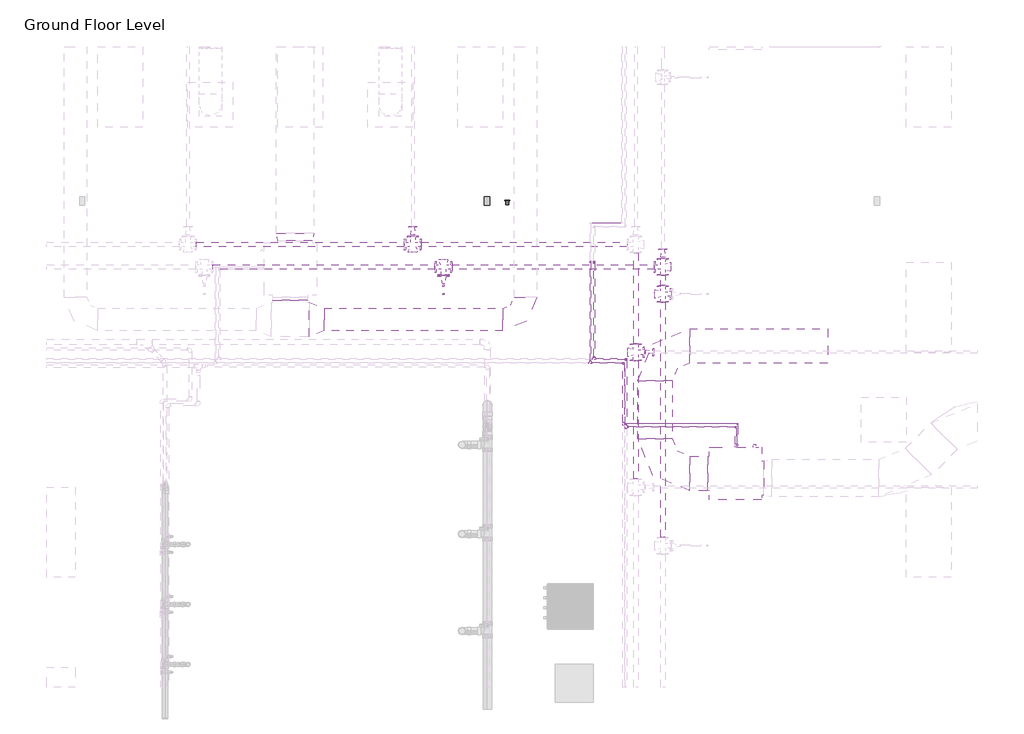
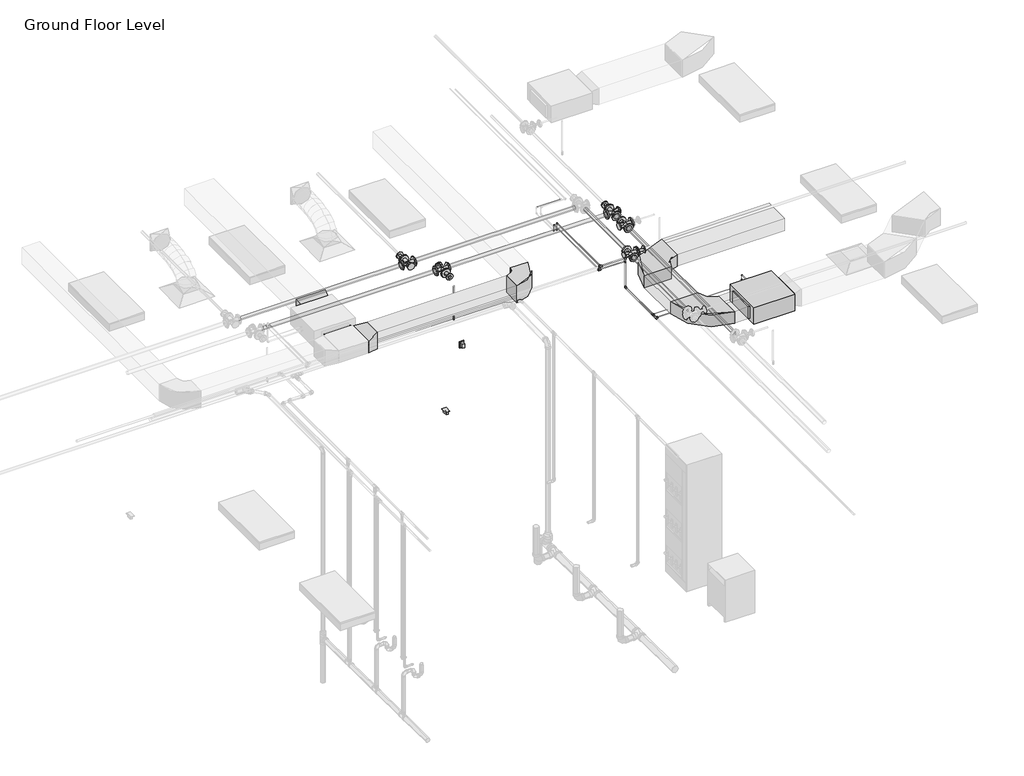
# One storey, part 67 of 74: 29 pipe fittings, 27 pipe segments, 6 duct fittings, 4 duct segments, 2 proxies, 1 fire suppression terminal, 1 switching device.
"""IFC4 building model written with IfcOpenShell, lengths in millimetres."""

from ifc_helpers import new_model, si_unit, point, frame, frame_2d, origin, place, context, project, spatial, polyline, circle_curve, trimmed, segment, composite_curve, outline, extrude, transform, mapped, element, save
from components import fcu_daikin_iu_bad131e0, m_duplex_receptacle_standard_10251bba, m_rectangular_elbow_radius_1_w_618da153, m_rectangular_elbow_radius_1_w_54c96895, m_rectangular_transition_angle_45_degree_5a11b24e, m_rectangular_transition_angle_45_degree_1c32c0a1, m_rectangular_transition_angle_45_degree_6e5ad010, m_sprinkler_pendent_15_mm_pendent_06fcbd8e, m_elbow_generic_standard_a088f956, m_elbow_generic_standard_2a704253, m_elbow_generic_standard_73005802, m_elbow_generic_standard_bb5ffebe, m_reducer_flanged_cs_class_150_standard_a7631c35, m_reducer_flanged_cs_class_150_standard_55262df0, m_tee_generic_standard_cdc1cff5, m_tee_generic_standard_bbfc025c, m_tee_round_base_flanged_cs_class_150_standard_dd767e04, m_transition_generic_standard_e9aec4dd, m_transition_generic_standard_c2658a33

model = new_model("IFC4")

# Units and contexts
model_context = context("Model", 3, world=origin())
ifc_project = project(units=[si_unit("LENGTHUNIT", "METRE", prefix="MILLI")], contexts=[model_context])

# Site, building, storey
site = spatial("IfcSite", under=ifc_project)
building = spatial("IfcBuilding", under=site)
storey = spatial("IfcBuildingStorey", under=building, Name="Ground Floor Level", Elevation=900.0)

# Proxies
placement = place(None, origin())
fcu_daikin_iu_shape = fcu_daikin_iu_bad131e0(model_context)
element("IfcBuildingElementProxy", 1, Name="FCU-DAIKIN IU : 4.5kW, 230V/50Hz/1Ph", ObjectType="FCU-DAIKIN IU : 4.5kW, 230V/50Hz/1Ph", at=placement, inside=storey, context=model_context, shape_type="MappedRepresentation", body=[
    mapped(fcu_daikin_iu_shape, transform((6968.8139492, 12019.6779527, 3934.0932729), x_axis=(0.0, 1.0, 0.0), y_axis=(-1.0, 0.0, 0.0), z_axis=(0.0, 0.0, 1.0))),
])
m_duplex_receptacle_standard_shape = m_duplex_receptacle_standard_10251bba(model_context)
element("IfcBuildingElementProxy", 2, Name="M_Duplex Receptacle : Standard", ObjectType="M_Duplex Receptacle : Standard", at=placement, inside=storey, context=model_context, shape_type="MappedRepresentation", body=[
    mapped(m_duplex_receptacle_standard_shape, transform((3652.7672395, 15655.2153534, 1000.0), x_axis=(1.0, 0.0, 0.0), y_axis=(0.0, 1.0, 0.0), z_axis=(0.0, 0.0, 1.0))),
])

# Duct fittings
m_rectangular_elbow_radius_1_w_shape = m_rectangular_elbow_radius_1_w_618da153(model_context)
element("IfcDuctFitting", 3, ObjectType="M_Rectangular Elbow - Radius : 1 W", at=placement, inside=storey, context=model_context, shape_type="MappedRepresentation", body=[
    mapped(m_rectangular_elbow_radius_1_w_shape, transform((4162.7672395, 14069.8153534, 4075.2872564), x_axis=(1.0, 0.0, 0.0), y_axis=(0.0, 1.0, 0.0), z_axis=(0.0, 0.0, 1.0))),
])
m_rectangular_elbow_radius_1_w_2_shape = m_rectangular_elbow_radius_1_w_54c96895(model_context)
element("IfcDuctFitting", 4, ObjectType="M_Rectangular Elbow - Radius : 1 W", at=placement, inside=storey, context=model_context, shape_type="MappedRepresentation", body=[
    mapped(m_rectangular_elbow_radius_1_w_2_shape, transform((5893.4139492, 12019.6779527, 4075.2932729), x_axis=(0.0, -1.0, 0.0), y_axis=(1.0, 0.0, 0.0), z_axis=(0.0, 0.0, 1.0))),
])
element("IfcDuctFitting", 5, ObjectType="M_Rectangular Elbow - Radius : 1 W", at=placement, inside=storey, context=model_context, shape_type="MappedRepresentation", body=[
    mapped(m_rectangular_elbow_radius_1_w_2_shape, transform((5893.4139492, 13719.6783949, 4075.2932729), x_axis=(-1.0, 0.0, 0.0), y_axis=(0.0, -1.0, 0.0), z_axis=(0.0, 0.0, 1.0))),
])
m_rectangular_transition_angle_45_degree_shape = m_rectangular_transition_angle_45_degree_5a11b24e(model_context)
element("IfcDuctFitting", 6, ObjectType="M_Rectangular Transition - Angle : 45 Degree", at=placement, inside=storey, context=model_context, shape_type="MappedRepresentation", body=[
    mapped(m_rectangular_transition_angle_45_degree_shape, transform((1091.2672395, 15120.6153534, 4099.9997564), x_axis=(0.0, 1.0, 0.0), y_axis=(-1.0, 0.0, 0.0), z_axis=(0.0, 0.0, 1.0))),
])
m_rectangular_transition_angle_45_degree_2_shape = m_rectangular_transition_angle_45_degree_1c32c0a1(model_context)
element("IfcDuctFitting", 7, ObjectType="M_Rectangular Transition - Angle : 45 Degree", at=placement, inside=storey, context=model_context, shape_type="MappedRepresentation", body=[
    mapped(m_rectangular_transition_angle_45_degree_2_shape, transform((1027.7672395, 14326.1149854, 4075.2872564), x_axis=(0.0, -1.0, 0.0), y_axis=(1.0, 0.0, 0.0), z_axis=(0.0, 0.0, 1.0))),
])
m_rectangular_transition_angle_45_degree_3_shape = m_rectangular_transition_angle_45_degree_6e5ad010(model_context)
element("IfcDuctFitting", 8, ObjectType="M_Rectangular Transition - Angle : 45 Degree", at=placement, inside=storey, context=model_context, shape_type="MappedRepresentation", body=[
    mapped(m_rectangular_transition_angle_45_degree_3_shape, transform((1283.7047395, 14069.8153534, 4075.2872564), x_axis=(1.0, 0.0, 0.0), y_axis=(0.0, 1.0, 0.0), z_axis=(0.0, 0.0, 1.0))),
])

# Duct segments
element("IfcDuctSegment", 9, ObjectType="Radius Elbows / Taps", at=placement, inside=storey, context=model_context, shape_type="SweptSolid", body=[
    extrude(outline(polyline([(1479.1051497, 13919.8153534), (1479.1051497, 14219.8153534), (3862.7672395, 14219.8153534), (3862.7672395, 13919.8153534), (1479.1051497, 13919.8153534)])), frame((0.0, 0.0, 3925.2872564), z_axis=(0.0, 0.0, 1.0), x_axis=(1.0, 0.0, 0.0)), (0.0, 0.0, 1.0), 300.0),
])
element("IfcDuctSegment", 10, ObjectType="Radius Elbows / Taps", at=placement, inside=storey, context=model_context, shape_type="SweptSolid", body=[
    extrude(outline(polyline([(6593.4139492, 12250.6154527), (6593.4139492, 11788.7404527), (6355.2889492, 11788.7404527), (6355.2889492, 12250.6154527), (6593.4139492, 12250.6154527)])), frame((0.0, 0.0, 3968.1432729), z_axis=(0.0, 0.0, 1.0), x_axis=(1.0, 0.0, 0.0)), (0.0, 0.0, 1.0), 214.3),
])
element("IfcDuctSegment", 11, ObjectType="Radius Elbows / Taps", at=placement, inside=storey, context=model_context, shape_type="SweptSolid", body=[
    extrude(outline(polyline([(6124.3514492, 12481.5529527), (5662.4764492, 12481.5529527), (5662.4764492, 13257.8033949), (6124.3514492, 13257.8033949), (6124.3514492, 12481.5529527)])), frame((0.0, 0.0, 3968.1432729), z_axis=(0.0, 0.0, 1.0), x_axis=(1.0, 0.0, 0.0)), (0.0, 0.0, 1.0), 214.3),
])
element("IfcDuctSegment", 12, ObjectType="Radius Elbows / Taps", at=placement, inside=storey, context=model_context, shape_type="SweptSolid", body=[
    extrude(outline(polyline([(6355.2889492, 13488.7408949), (6355.2889492, 13950.6158949), (8193.4139492, 13950.6158949), (8193.4139492, 13488.7408949), (6355.2889492, 13488.7408949)])), frame((0.0, 0.0, 3968.1432729), z_axis=(0.0, 0.0, 1.0), x_axis=(1.0, 0.0, 0.0)), (0.0, 0.0, 1.0), 214.3),
])

# Fire suppression terminal
m_sprinkler_pendent_15_mm_pendent_shape = m_sprinkler_pendent_15_mm_pendent_06fcbd8e(model_context)
element("IfcFireSuppressionTerminal", 13, ObjectType="M_Sprinkler - Pendent : 15 mm Pendent", at=placement, inside=storey, context=model_context, shape_type="MappedRepresentation", body=[
    mapped(m_sprinkler_pendent_15_mm_pendent_shape, transform((3071.8868905, 14412.7243649, 3650.0), x_axis=(1.0, 0.0, 0.0), y_axis=(0.0, 1.0, 0.0), z_axis=(0.0, 0.0, 1.0))),
])

# Pipe fittings
m_elbow_generic_standard_shape = m_elbow_generic_standard_a088f956(model_context)
element("IfcPipeFitting", 14, ObjectType="M_Elbow - Generic : Standard", at=placement, inside=storey, context=model_context, shape_type="MappedRepresentation", body=[
    mapped(m_elbow_generic_standard_shape, transform((6968.8139492, 12641.4098545, 4034.0932729), x_axis=(0.0, 1.0, 0.0), y_axis=(0.0, 0.0, -1.0), z_axis=(-1.0, 0.0, 0.0))),
])
element("IfcPipeFitting", 15, ObjectType="M_Elbow - Generic : Standard", at=placement, inside=storey, context=model_context, shape_type="MappedRepresentation", body=[
    mapped(m_elbow_generic_standard_shape, transform((6968.8139492, 12641.4098545, 3851.8370709), x_axis=(0.0, 0.0, -1.0), y_axis=(-1.0, 0.0, 0.0), z_axis=(0.0, 1.0, 0.0))),
])
element("IfcPipeFitting", 16, ObjectType="M_Elbow - Generic : Standard", at=placement, inside=storey, context=model_context, shape_type="MappedRepresentation", body=[
    mapped(m_elbow_generic_standard_shape, transform((5079.6672395, 14839.2712401, 4250.0), x_axis=(0.0, -1.0, 0.0), y_axis=(0.0, 0.0, 1.0), z_axis=(-1.0, 0.0, 0.0))),
])
element("IfcPipeFitting", 17, ObjectType="M_Elbow - Generic : Standard", at=placement, inside=storey, context=model_context, shape_type="MappedRepresentation", body=[
    mapped(m_elbow_generic_standard_shape, transform((5079.6672395, 14839.2712401, 4380.0), x_axis=(0.0, 0.0, 1.0), y_axis=(0.0, -1.0, 0.0), z_axis=(1.0, 0.0, 0.0))),
])
m_elbow_generic_standard_2_shape = m_elbow_generic_standard_2a704253(model_context)
element("IfcPipeFitting", 18, ObjectType="M_Elbow - Generic : Standard", at=placement, inside=storey, context=model_context, shape_type="MappedRepresentation", body=[
    mapped(m_elbow_generic_standard_2_shape, transform((6993.8139492, 12681.5253374, 4084.8932729), x_axis=(0.0, 1.0, 0.0), y_axis=(0.0, 0.0, -1.0), z_axis=(-1.0, 0.0, 0.0))),
])
element("IfcPipeFitting", 19, ObjectType="M_Elbow - Generic : Standard", at=placement, inside=storey, context=model_context, shape_type="MappedRepresentation", body=[
    mapped(m_elbow_generic_standard_2_shape, transform((6993.8139492, 12681.5253374, 3894.9), x_axis=(0.0, 0.0, -1.0), y_axis=(-1.0, 0.0, 0.0), z_axis=(0.0, 1.0, 0.0))),
])
element("IfcPipeFitting", 20, ObjectType="M_Elbow - Generic : Standard", at=placement, inside=storey, context=model_context, shape_type="MappedRepresentation", body=[
    mapped(m_elbow_generic_standard_2_shape, transform((5029.9807053, 14842.4877441, 4250.0), x_axis=(0.0, -1.0, 0.0), y_axis=(0.0, 0.0, 1.0), z_axis=(-1.0, 0.0, 0.0))),
])
element("IfcPipeFitting", 21, ObjectType="M_Elbow - Generic : Standard", at=placement, inside=storey, context=model_context, shape_type="MappedRepresentation", body=[
    mapped(m_elbow_generic_standard_2_shape, transform((5029.9807053, 14842.4877441, 4365.0), x_axis=(0.0, 0.0, 1.0), y_axis=(0.0, -1.0, 0.0), z_axis=(1.0, 0.0, 0.0))),
])
m_elbow_generic_standard_3_shape = m_elbow_generic_standard_73005802(model_context)
element("IfcPipeFitting", 22, ObjectType="M_Elbow - Generic : Standard", at=placement, inside=storey, context=model_context, shape_type="MappedRepresentation", body=[
    mapped(m_elbow_generic_standard_3_shape, transform((5505.0672395, 13545.2153534, 3851.8370709), x_axis=(0.0, 1.0, 0.0), y_axis=(0.0, 0.0, 1.0), z_axis=(1.0, 0.0, 0.0))),
])
element("IfcPipeFitting", 23, ObjectType="M_Elbow - Generic : Standard", at=placement, inside=storey, context=model_context, shape_type="MappedRepresentation", body=[
    mapped(m_elbow_generic_standard_3_shape, transform((5505.0672395, 13545.2153534, 4380.0), x_axis=(0.0, 0.0, 1.0), y_axis=(-1.0, 0.0, 0.0), z_axis=(0.0, -1.0, 0.0))),
])
m_elbow_generic_standard_4_shape = m_elbow_generic_standard_bb5ffebe(model_context)
element("IfcPipeFitting", 24, ObjectType="M_Elbow - Generic : Standard", at=placement, inside=storey, context=model_context, shape_type="MappedRepresentation", body=[
    mapped(m_elbow_generic_standard_4_shape, transform((5472.2057053, 13494.0185138, 3894.9), x_axis=(0.0, 1.0, 0.0), y_axis=(0.0, 0.0, 1.0), z_axis=(1.0, 0.0, 0.0))),
])
element("IfcPipeFitting", 25, ObjectType="M_Elbow - Generic : Standard", at=placement, inside=storey, context=model_context, shape_type="MappedRepresentation", body=[
    mapped(m_elbow_generic_standard_4_shape, transform((5472.2057053, 13494.0185138, 4365.0), x_axis=(0.0, 0.0, 1.0), y_axis=(-1.0, 0.0, 0.0), z_axis=(0.0, -1.0, 0.0))),
])
m_reducer_flanged_cs_class_150_standard_shape = m_reducer_flanged_cs_class_150_standard_a7631c35(model_context)
element("IfcPipeFitting", 26, ObjectType="M_Reducer - Flanged - CS - Class 150 : Standard", at=placement, inside=storey, context=model_context, shape_type="MappedRepresentation", body=[
    mapped(m_reducer_flanged_cs_class_150_standard_shape, transform((5997.057812, 14887.4681847, 4291.0943441), x_axis=(0.0, 1.0, 0.0), y_axis=(-1.0, 0.0, 0.0), z_axis=(0.0, 0.0, 1.0))),
])
element("IfcPipeFitting", 27, ObjectType="M_Reducer - Flanged - CS - Class 150 : Standard", at=placement, inside=storey, context=model_context, shape_type="MappedRepresentation", body=[
    mapped(m_reducer_flanged_cs_class_150_standard_shape, transform((2662.7672395, 15187.2009828, 4360.0), x_axis=(0.0, 1.0, 0.0), y_axis=(-1.0, 0.0, 0.0), z_axis=(0.0, 0.0, 1.0))),
])
element("IfcPipeFitting", 28, ObjectType="M_Reducer - Flanged - CS - Class 150 : Standard", at=placement, inside=storey, context=model_context, shape_type="MappedRepresentation", body=[
    mapped(m_reducer_flanged_cs_class_150_standard_shape, transform((5749.869498, 13635.2153534, 4360.0), x_axis=(1.0, 0.0, 0.0), y_axis=(0.0, 0.0, 1.0), z_axis=(0.0, -1.0, 0.0))),
])
m_reducer_flanged_cs_class_150_standard_2_shape = m_reducer_flanged_cs_class_150_standard_55262df0(model_context)
element("IfcPipeFitting", 29, ObjectType="M_Reducer - Flanged - CS - Class 150 : Standard", at=placement, inside=storey, context=model_context, shape_type="MappedRepresentation", body=[
    mapped(m_reducer_flanged_cs_class_150_standard_2_shape, transform((3071.8868905, 14659.4681847, 4291.0943441), x_axis=(0.0, -1.0, 0.0), y_axis=(1.0, 0.0, 0.0), z_axis=(0.0, 0.0, 1.0))),
])
m_tee_generic_standard_shape = m_tee_generic_standard_cdc1cff5(model_context)
element("IfcPipeFitting", 30, ObjectType="M_Tee - Generic : Standard", at=placement, inside=storey, context=model_context, shape_type="MappedRepresentation", body=[
    mapped(m_tee_generic_standard_shape, transform((5472.2057053, 12681.5253374, 3894.9), x_axis=(0.0, 1.0, 0.0), y_axis=(-1.0, 0.0, 0.0), z_axis=(0.0, 0.0, 1.0))),
])
element("IfcPipeFitting", 31, ObjectType="M_Tee - Generic : Standard", at=placement, inside=storey, context=model_context, shape_type="MappedRepresentation", body=[
    mapped(m_tee_generic_standard_shape, transform((5029.9807053, 13494.0185138, 4365.0), x_axis=(-1.0, 0.0, 0.0), y_axis=(0.0, -1.0, 0.0), z_axis=(0.0, 0.0, 1.0))),
])
m_tee_generic_standard_2_shape = m_tee_generic_standard_bbfc025c(model_context)
element("IfcPipeFitting", 32, ObjectType="M_Tee - Generic : Standard", at=placement, inside=storey, context=model_context, shape_type="MappedRepresentation", body=[
    mapped(m_tee_generic_standard_2_shape, transform((5505.0672395, 12641.4098545, 3851.8370709), x_axis=(0.0, 1.0, 0.0), y_axis=(-1.0, 0.0, 0.0), z_axis=(0.0, 0.0, 1.0))),
])
element("IfcPipeFitting", 33, ObjectType="M_Tee - Generic : Standard", at=placement, inside=storey, context=model_context, shape_type="MappedRepresentation", body=[
    mapped(m_tee_generic_standard_2_shape, transform((5079.6672395, 13545.2153534, 4380.0), x_axis=(-1.0, 0.0, 0.0), y_axis=(0.0, -1.0, 0.0), z_axis=(0.0, 0.0, 1.0))),
])
m_tee_round_base_flanged_cs_class_150_standard_shape = m_tee_round_base_flanged_cs_class_150_standard_dd767e04(model_context)
element("IfcPipeFitting", 34, ObjectType="M_Tee Round Base - Flanged - CS - Class 150 : Standard", at=placement, inside=storey, context=model_context, shape_type="MappedRepresentation", body=[
    mapped(m_tee_round_base_flanged_cs_class_150_standard_shape, transform((5997.057812, 14773.4681847, 4291.0943441), x_axis=(0.0, -1.0, 0.0), y_axis=(1.0, 0.0, 0.0), z_axis=(0.0, 0.0, 1.0))),
])
element("IfcPipeFitting", 35, ObjectType="M_Tee Round Base - Flanged - CS - Class 150 : Standard", at=placement, inside=storey, context=model_context, shape_type="MappedRepresentation", body=[
    mapped(m_tee_round_base_flanged_cs_class_150_standard_shape, transform((3071.8868905, 14773.4681847, 4291.0943441), x_axis=(-1.0, 0.0, 0.0), y_axis=(0.0, 1.0, 0.0), z_axis=(0.0, 0.0, -1.0))),
])
element("IfcPipeFitting", 36, ObjectType="M_Tee Round Base - Flanged - CS - Class 150 : Standard", at=placement, inside=storey, context=model_context, shape_type="MappedRepresentation", body=[
    mapped(m_tee_round_base_flanged_cs_class_150_standard_shape, transform((5997.057812, 14412.7243649, 4291.0943441), x_axis=(0.0, 1.0, 0.0), y_axis=(-1.0, 0.0, 0.0), z_axis=(0.0, 0.0, 1.0))),
])
element("IfcPipeFitting", 37, ObjectType="M_Tee Round Base - Flanged - CS - Class 150 : Standard", at=placement, inside=storey, context=model_context, shape_type="MappedRepresentation", body=[
    mapped(m_tee_round_base_flanged_cs_class_150_standard_shape, transform((2662.7672395, 15073.2009828, 4360.0), x_axis=(-1.0, 0.0, 0.0), y_axis=(0.0, -1.0, 0.0), z_axis=(0.0, 0.0, 1.0))),
])
element("IfcPipeFitting", 38, ObjectType="M_Tee Round Base - Flanged - CS - Class 150 : Standard", at=placement, inside=storey, context=model_context, shape_type="MappedRepresentation", body=[
    mapped(m_tee_round_base_flanged_cs_class_150_standard_shape, transform((5635.869498, 13635.2153534, 4360.0), x_axis=(0.0, 1.0, 0.0), y_axis=(-1.0, 0.0, 0.0), z_axis=(0.0, 0.0, 1.0))),
])
m_transition_generic_standard_shape = m_transition_generic_standard_e9aec4dd(model_context)
element("IfcPipeFitting", 39, ObjectType="M_Transition - Generic : Standard", at=placement, inside=storey, context=model_context, shape_type="MappedRepresentation", body=[
    mapped(m_transition_generic_standard_shape, transform((5530.4672395, 12641.4098545, 3851.8370709), x_axis=(1.0, 0.0, 0.0), y_axis=(0.0, 1.0, 0.0), z_axis=(0.0, 0.0, 1.0))),
])
element("IfcPipeFitting", 40, ObjectType="M_Transition - Generic : Standard", at=placement, inside=storey, context=model_context, shape_type="MappedRepresentation", body=[
    mapped(m_transition_generic_standard_shape, transform((5079.6672395, 13570.6153534, 4380.0), x_axis=(0.0, 1.0, 0.0), y_axis=(-1.0, 0.0, 0.0), z_axis=(0.0, 0.0, 1.0))),
])
m_transition_generic_standard_2_shape = m_transition_generic_standard_c2658a33(model_context)
element("IfcPipeFitting", 41, ObjectType="M_Transition - Generic : Standard", at=placement, inside=storey, context=model_context, shape_type="MappedRepresentation", body=[
    mapped(m_transition_generic_standard_2_shape, transform((5494.4307053, 12681.5253374, 3894.9), x_axis=(1.0, 0.0, 0.0), y_axis=(0.0, 1.0, 0.0), z_axis=(0.0, 0.0, 1.0))),
])
element("IfcPipeFitting", 42, ObjectType="M_Transition - Generic : Standard", at=placement, inside=storey, context=model_context, shape_type="MappedRepresentation", body=[
    mapped(m_transition_generic_standard_2_shape, transform((5029.9807053, 13516.2435138, 4365.0), x_axis=(0.0, 1.0, 0.0), y_axis=(-1.0, 0.0, 0.0), z_axis=(0.0, 0.0, 1.0))),
])

# Pipe segments
element("IfcPipeSegment", 43, ObjectType="Copper", at=placement, inside=storey, context=model_context, shape_type="SweptSolid", body=[
    extrude(outline(composite_curve([segment(trimmed(circle_curve(frame_2d((13494.0185138, 4365.0)), 8.1), [point((13485.9185138, 4365.0))], [point((13494.0185138, 4373.1))], False, "CARTESIAN"), True, "CONTINUOUS"), segment(trimmed(circle_curve(frame_2d((13494.0185138, 4365.0)), 8.1), [point((13494.0185138, 4373.1))], [point((13502.1185138, 4365.0))], False, "CARTESIAN"), True, "CONTINUOUS"), segment(trimmed(circle_curve(frame_2d((13494.0185138, 4365.0)), 8.1), [point((13502.1185138, 4365.0))], [point((13494.0185138, 4356.9))], False, "CARTESIAN"), True, "CONTINUOUS"), segment(trimmed(circle_curve(frame_2d((13494.0185138, 4365.0)), 8.1), [point((13494.0185138, 4356.9))], [point((13485.9185138, 4365.0))], False, "CARTESIAN"), True, "CONTINUOUS")], self_intersect=False)), frame((5052.2057053, 0.0, 0.0), z_axis=(1.0, 0.0, 0.0), x_axis=(0.0, 1.0, 0.0)), (0.0, 0.0, 1.0), 404.125),
])
element("IfcPipeSegment", 44, ObjectType="Copper", at=placement, inside=storey, context=model_context, shape_type="SweptSolid", body=[
    extrude(outline(composite_curve([segment(trimmed(circle_curve(frame_2d((15359.0778534, 4365.0)), 3.35), [point((15355.7278534, 4365.0))], [point((15359.0778534, 4368.35))], False, "CARTESIAN"), True, "CONTINUOUS"), segment(trimmed(circle_curve(frame_2d((15359.0778534, 4365.0)), 3.35), [point((15359.0778534, 4368.35))], [point((15362.4278534, 4365.0))], False, "CARTESIAN"), True, "CONTINUOUS"), segment(trimmed(circle_curve(frame_2d((15359.0778534, 4365.0)), 3.35), [point((15362.4278534, 4365.0))], [point((15359.0778534, 4361.65))], False, "CARTESIAN"), True, "CONTINUOUS"), segment(trimmed(circle_curve(frame_2d((15359.0778534, 4365.0)), 3.35), [point((15359.0778534, 4361.65))], [point((15355.7278534, 4365.0))], False, "CARTESIAN"), True, "CONTINUOUS")], self_intersect=False)), frame((5041.1182053, 0.0, 0.0), z_axis=(1.0, 0.0, 0.0), x_axis=(0.0, 1.0, 0.0)), (0.0, 0.0, 1.0), 399.8253593),
])
element("IfcPipeSegment", 45, ObjectType="Copper", at=placement, inside=storey, context=model_context, shape_type="SweptSolid", body=[
    extrude(outline(composite_curve([segment(trimmed(circle_curve(frame_2d((12681.5253374, 3894.9)), 3.35), [point((12684.8753374, 3894.9))], [point((12681.5253374, 3891.55))], False, "CARTESIAN"), True, "CONTINUOUS"), segment(trimmed(circle_curve(frame_2d((12681.5253374, 3894.9)), 3.35), [point((12681.5253374, 3891.55))], [point((12678.1753374, 3894.9))], False, "CARTESIAN"), True, "CONTINUOUS"), segment(trimmed(circle_curve(frame_2d((12681.5253374, 3894.9)), 3.35), [point((12678.1753374, 3894.9))], [point((12681.5253374, 3898.25))], False, "CARTESIAN"), True, "CONTINUOUS"), segment(trimmed(circle_curve(frame_2d((12681.5253374, 3894.9)), 3.35), [point((12681.5253374, 3898.25))], [point((12684.8753374, 3894.9))], False, "CARTESIAN"), True, "CONTINUOUS")], self_intersect=False)), frame((5499.1932053, 0.0, 0.0), z_axis=(1.0, 0.0, 0.0), x_axis=(0.0, 1.0, 0.0)), (0.0, 0.0, 1.0), 1483.483244),
])
element("IfcPipeSegment", 46, ObjectType="Copper", at=placement, inside=storey, context=model_context, shape_type="SweptSolid", body=[
    extrude(outline(composite_curve([segment(trimmed(circle_curve(frame_2d((12641.4098545, 3851.8370709)), 6.5), [point((12647.9098545, 3851.8370709))], [point((12641.4098545, 3845.3370709))], False, "CARTESIAN"), True, "CONTINUOUS"), segment(trimmed(circle_curve(frame_2d((12641.4098545, 3851.8370709)), 6.5), [point((12641.4098545, 3845.3370709))], [point((12634.9098545, 3851.8370709))], False, "CARTESIAN"), True, "CONTINUOUS"), segment(trimmed(circle_curve(frame_2d((12641.4098545, 3851.8370709)), 6.5), [point((12634.9098545, 3851.8370709))], [point((12641.4098545, 3858.3370709))], False, "CARTESIAN"), True, "CONTINUOUS"), segment(trimmed(circle_curve(frame_2d((12641.4098545, 3851.8370709)), 6.5), [point((12641.4098545, 3858.3370709))], [point((12647.9098545, 3851.8370709))], False, "CARTESIAN"), True, "CONTINUOUS")], self_intersect=False)), frame((5536.8172395, 0.0, 0.0), z_axis=(1.0, 0.0, 0.0), x_axis=(0.0, 1.0, 0.0)), (0.0, 0.0, 1.0), 1417.7092098),
])
element("IfcPipeSegment", 47, ObjectType="Copper", at=placement, inside=storey, context=model_context, shape_type="SweptSolid", body=[
    extrude(outline(composite_curve([segment(trimmed(circle_curve(frame_2d((4034.0932729, 6968.8139492)), 6.5), [point((4034.0932729, 6975.3139492))], [point((4040.5932729, 6968.8139492))], False, "CARTESIAN"), True, "CONTINUOUS"), segment(trimmed(circle_curve(frame_2d((4034.0932729, 6968.8139492)), 6.5), [point((4040.5932729, 6968.8139492))], [point((4034.0932729, 6962.3139492))], False, "CARTESIAN"), True, "CONTINUOUS"), segment(trimmed(circle_curve(frame_2d((4034.0932729, 6968.8139492)), 6.5), [point((4034.0932729, 6962.3139492))], [point((4027.5932729, 6968.8139492))], False, "CARTESIAN"), True, "CONTINUOUS"), segment(trimmed(circle_curve(frame_2d((4034.0932729, 6968.8139492)), 6.5), [point((4027.5932729, 6968.8139492))], [point((4034.0932729, 6975.3139492))], False, "CARTESIAN"), True, "CONTINUOUS")], self_intersect=False)), frame((0.0, 12407.7779527, 0.0), z_axis=(0.0, 1.0, 0.0), x_axis=(0.0, 0.0, 1.0)), (0.0, 0.0, 1.0), 219.3444019),
])
element("IfcPipeSegment", 48, ObjectType="Copper", at=placement, inside=storey, context=model_context, shape_type="SweptSolid", body=[
    extrude(outline(composite_curve([segment(trimmed(circle_curve(frame_2d((4084.8932729, 6993.8139492)), 3.35), [point((4084.8932729, 6997.1639492))], [point((4088.2432729, 6993.8139492))], False, "CARTESIAN"), True, "CONTINUOUS"), segment(trimmed(circle_curve(frame_2d((4084.8932729, 6993.8139492)), 3.35), [point((4088.2432729, 6993.8139492))], [point((4084.8932729, 6990.4639492))], False, "CARTESIAN"), True, "CONTINUOUS"), segment(trimmed(circle_curve(frame_2d((4084.8932729, 6993.8139492)), 3.35), [point((4084.8932729, 6990.4639492))], [point((4081.5432729, 6993.8139492))], False, "CARTESIAN"), True, "CONTINUOUS"), segment(trimmed(circle_curve(frame_2d((4084.8932729, 6993.8139492)), 3.35), [point((4081.5432729, 6993.8139492))], [point((4084.8932729, 6997.1639492))], False, "CARTESIAN"), True, "CONTINUOUS")], self_intersect=False)), frame((0.0, 12407.7779527, 0.0), z_axis=(0.0, 1.0, 0.0), x_axis=(0.0, 0.0, 1.0)), (0.0, 0.0, 1.0), 262.6098848),
])
element("IfcPipeSegment", 49, ObjectType="Copper", at=placement, inside=storey, context=model_context, shape_type="SweptSolid", body=[
    extrude(outline(composite_curve([segment(trimmed(circle_curve(frame_2d((5505.0672395, 13545.2153534)), 11.5), [point((5493.5672395, 13545.2153534))], [point((5505.0672395, 13556.7153534))], False, "CARTESIAN"), True, "CONTINUOUS"), segment(trimmed(circle_curve(frame_2d((5505.0672395, 13545.2153534)), 11.5), [point((5505.0672395, 13556.7153534))], [point((5516.5672395, 13545.2153534))], False, "CARTESIAN"), True, "CONTINUOUS"), segment(trimmed(circle_curve(frame_2d((5505.0672395, 13545.2153534)), 11.5), [point((5516.5672395, 13545.2153534))], [point((5505.0672395, 13533.7153534))], False, "CARTESIAN"), True, "CONTINUOUS"), segment(trimmed(circle_curve(frame_2d((5505.0672395, 13545.2153534)), 11.5), [point((5505.0672395, 13533.7153534))], [point((5493.5672395, 13545.2153534))], False, "CARTESIAN"), True, "CONTINUOUS")], self_intersect=False)), frame((0.0, 0.0, 3870.8870709), z_axis=(0.0, 0.0, 1.0), x_axis=(1.0, 0.0, 0.0)), (0.0, 0.0, 1.0), 490.0629291),
])
element("IfcPipeSegment", 50, ObjectType="Copper", at=placement, inside=storey, context=model_context, shape_type="SweptSolid", body=[
    extrude(outline(composite_curve([segment(trimmed(circle_curve(frame_2d((5472.2057053, 13494.0185138)), 8.1), [point((5464.1057053, 13494.0185138))], [point((5472.2057053, 13502.1185138))], False, "CARTESIAN"), True, "CONTINUOUS"), segment(trimmed(circle_curve(frame_2d((5472.2057053, 13494.0185138)), 8.1), [point((5472.2057053, 13502.1185138))], [point((5480.3057053, 13494.0185138))], False, "CARTESIAN"), True, "CONTINUOUS"), segment(trimmed(circle_curve(frame_2d((5472.2057053, 13494.0185138)), 8.1), [point((5480.3057053, 13494.0185138))], [point((5472.2057053, 13485.9185138))], False, "CARTESIAN"), True, "CONTINUOUS"), segment(trimmed(circle_curve(frame_2d((5472.2057053, 13494.0185138)), 8.1), [point((5472.2057053, 13485.9185138))], [point((5464.1057053, 13494.0185138))], False, "CARTESIAN"), True, "CONTINUOUS")], self_intersect=False)), frame((0.0, 0.0, 3910.775), z_axis=(0.0, 0.0, 1.0), x_axis=(1.0, 0.0, 0.0)), (0.0, 0.0, 1.0), 438.35),
])
element("IfcPipeSegment", 51, ObjectType="Copper", at=placement, inside=storey, context=model_context, shape_type="SweptSolid", body=[
    extrude(outline(composite_curve([segment(trimmed(circle_curve(frame_2d((6968.8139492, 12641.4098545)), 6.5), [point((6975.3139492, 12641.4098545))], [point((6968.8139492, 12634.9098545))], False, "CARTESIAN"), True, "CONTINUOUS"), segment(trimmed(circle_curve(frame_2d((6968.8139492, 12641.4098545)), 6.5), [point((6968.8139492, 12634.9098545))], [point((6962.3139492, 12641.4098545))], False, "CARTESIAN"), True, "CONTINUOUS"), segment(trimmed(circle_curve(frame_2d((6968.8139492, 12641.4098545)), 6.5), [point((6962.3139492, 12641.4098545))], [point((6968.8139492, 12647.9098545))], False, "CARTESIAN"), True, "CONTINUOUS"), segment(trimmed(circle_curve(frame_2d((6968.8139492, 12641.4098545)), 6.5), [point((6968.8139492, 12647.9098545))], [point((6975.3139492, 12641.4098545))], False, "CARTESIAN"), True, "CONTINUOUS")], self_intersect=False)), frame((0.0, 0.0, 3866.1245709), z_axis=(0.0, 0.0, 1.0), x_axis=(1.0, 0.0, 0.0)), (0.0, 0.0, 1.0), 153.6812021),
])
element("IfcPipeSegment", 52, ObjectType="Copper", at=placement, inside=storey, context=model_context, shape_type="SweptSolid", body=[
    extrude(outline(composite_curve([segment(trimmed(circle_curve(frame_2d((3851.8370709, 5505.0672395)), 11.5), [point((3851.8370709, 5493.5672395))], [point((3840.3370709, 5505.0672395))], False, "CARTESIAN"), True, "CONTINUOUS"), segment(trimmed(circle_curve(frame_2d((3851.8370709, 5505.0672395)), 11.5), [point((3840.3370709, 5505.0672395))], [point((3851.8370709, 5516.5672395))], False, "CARTESIAN"), True, "CONTINUOUS"), segment(trimmed(circle_curve(frame_2d((3851.8370709, 5505.0672395)), 11.5), [point((3851.8370709, 5516.5672395))], [point((3863.3370709, 5505.0672395))], False, "CARTESIAN"), True, "CONTINUOUS"), segment(trimmed(circle_curve(frame_2d((3851.8370709, 5505.0672395)), 11.5), [point((3863.3370709, 5505.0672395))], [point((3851.8370709, 5493.5672395))], False, "CARTESIAN"), True, "CONTINUOUS")], self_intersect=False)), frame((0.0, 12666.8098545, 0.0), z_axis=(0.0, 1.0, 0.0), x_axis=(0.0, 0.0, 1.0)), (0.0, 0.0, 1.0), 859.3554989),
])
element("IfcPipeSegment", 53, ObjectType="Copper", at=placement, inside=storey, context=model_context, shape_type="SweptSolid", body=[
    extrude(outline(composite_curve([segment(trimmed(circle_curve(frame_2d((6993.8139492, 12681.5253374)), 3.35), [point((6997.1639492, 12681.5253374))], [point((6993.8139492, 12678.1753374))], False, "CARTESIAN"), True, "CONTINUOUS"), segment(trimmed(circle_curve(frame_2d((6993.8139492, 12681.5253374)), 3.35), [point((6993.8139492, 12678.1753374))], [point((6990.4639492, 12681.5253374))], False, "CARTESIAN"), True, "CONTINUOUS"), segment(trimmed(circle_curve(frame_2d((6993.8139492, 12681.5253374)), 3.35), [point((6990.4639492, 12681.5253374))], [point((6993.8139492, 12684.8753374))], False, "CARTESIAN"), True, "CONTINUOUS"), segment(trimmed(circle_curve(frame_2d((6993.8139492, 12681.5253374)), 3.35), [point((6993.8139492, 12684.8753374))], [point((6997.1639492, 12681.5253374))], False, "CARTESIAN"), True, "CONTINUOUS")], self_intersect=False)), frame((0.0, 0.0, 3906.0375), z_axis=(0.0, 0.0, 1.0), x_axis=(1.0, 0.0, 0.0)), (0.0, 0.0, 1.0), 167.7182729),
])
element("IfcPipeSegment", 54, ObjectType="Copper", at=placement, inside=storey, context=model_context, shape_type="SweptSolid", body=[
    extrude(outline(composite_curve([segment(trimmed(circle_curve(frame_2d((3894.9, 5472.2057053)), 8.1), [point((3894.9, 5464.1057053))], [point((3886.8, 5472.2057053))], False, "CARTESIAN"), True, "CONTINUOUS"), segment(trimmed(circle_curve(frame_2d((3894.9, 5472.2057053)), 8.1), [point((3886.8, 5472.2057053))], [point((3894.9, 5480.3057053))], False, "CARTESIAN"), True, "CONTINUOUS"), segment(trimmed(circle_curve(frame_2d((3894.9, 5472.2057053)), 8.1), [point((3894.9, 5480.3057053))], [point((3903.0, 5472.2057053))], False, "CARTESIAN"), True, "CONTINUOUS"), segment(trimmed(circle_curve(frame_2d((3894.9, 5472.2057053)), 8.1), [point((3903.0, 5472.2057053))], [point((3894.9, 5464.1057053))], False, "CARTESIAN"), True, "CONTINUOUS")], self_intersect=False)), frame((0.0, 12703.7503374, 0.0), z_axis=(0.0, 1.0, 0.0), x_axis=(0.0, 0.0, 1.0)), (0.0, 0.0, 1.0), 774.3931764),
])
element("IfcPipeSegment", 55, ObjectType="Copper", at=placement, inside=storey, context=model_context, shape_type="SweptSolid", body=[
    extrude(outline(composite_curve([segment(trimmed(circle_curve(frame_2d((4380.0, 5079.6672395)), 6.5), [point((4380.0, 5086.1672395))], [point((4386.5, 5079.6672395))], False, "CARTESIAN"), True, "CONTINUOUS"), segment(trimmed(circle_curve(frame_2d((4380.0, 5079.6672395)), 6.5), [point((4386.5, 5079.6672395))], [point((4380.0, 5073.1672395))], False, "CARTESIAN"), True, "CONTINUOUS"), segment(trimmed(circle_curve(frame_2d((4380.0, 5079.6672395)), 6.5), [point((4380.0, 5073.1672395))], [point((4373.5, 5079.6672395))], False, "CARTESIAN"), True, "CONTINUOUS"), segment(trimmed(circle_curve(frame_2d((4380.0, 5079.6672395)), 6.5), [point((4373.5, 5079.6672395))], [point((4380.0, 5086.1672395))], False, "CARTESIAN"), True, "CONTINUOUS")], self_intersect=False)), frame((0.0, 13576.9653534, 0.0), z_axis=(0.0, 1.0, 0.0), x_axis=(0.0, 0.0, 1.0)), (0.0, 0.0, 1.0), 1248.0183867),
])
element("IfcPipeSegment", 56, ObjectType="Copper", at=placement, inside=storey, context=model_context, shape_type="SweptSolid", body=[
    extrude(outline(composite_curve([segment(trimmed(circle_curve(frame_2d((4365.0, 5029.9807053)), 3.35), [point((4365.0, 5033.3307053))], [point((4368.35, 5029.9807053))], False, "CARTESIAN"), True, "CONTINUOUS"), segment(trimmed(circle_curve(frame_2d((4365.0, 5029.9807053)), 3.35), [point((4368.35, 5029.9807053))], [point((4365.0, 5026.6307053))], False, "CARTESIAN"), True, "CONTINUOUS"), segment(trimmed(circle_curve(frame_2d((4365.0, 5029.9807053)), 3.35), [point((4365.0, 5026.6307053))], [point((4361.65, 5029.9807053))], False, "CARTESIAN"), True, "CONTINUOUS"), segment(trimmed(circle_curve(frame_2d((4365.0, 5029.9807053)), 3.35), [point((4361.65, 5029.9807053))], [point((4365.0, 5033.3307053))], False, "CARTESIAN"), True, "CONTINUOUS")], self_intersect=False)), frame((0.0, 13521.0060138, 0.0), z_axis=(0.0, 1.0, 0.0), x_axis=(0.0, 0.0, 1.0)), (0.0, 0.0, 1.0), 1310.3442303),
])
element("IfcPipeSegment", 57, ObjectType="Copper", at=placement, inside=storey, context=model_context, shape_type="SweptSolid", body=[
    extrude(outline(composite_curve([segment(trimmed(circle_curve(frame_2d((5029.9807053, 14842.4877441)), 3.35), [point((5026.6307053, 14842.4877441))], [point((5029.9807053, 14845.8377441))], False, "CARTESIAN"), True, "CONTINUOUS"), segment(trimmed(circle_curve(frame_2d((5029.9807053, 14842.4877441)), 3.35), [point((5029.9807053, 14845.8377441))], [point((5033.3307053, 14842.4877441))], False, "CARTESIAN"), True, "CONTINUOUS"), segment(trimmed(circle_curve(frame_2d((5029.9807053, 14842.4877441)), 3.35), [point((5033.3307053, 14842.4877441))], [point((5029.9807053, 14839.1377441))], False, "CARTESIAN"), True, "CONTINUOUS"), segment(trimmed(circle_curve(frame_2d((5029.9807053, 14842.4877441)), 3.35), [point((5029.9807053, 14839.1377441))], [point((5026.6307053, 14842.4877441))], False, "CARTESIAN"), True, "CONTINUOUS")], self_intersect=False)), frame((0.0, 0.0, 4261.1375), z_axis=(0.0, 0.0, 1.0), x_axis=(1.0, 0.0, 0.0)), (0.0, 0.0, 1.0), 92.725),
])
element("IfcPipeSegment", 58, ObjectType="Copper", at=placement, inside=storey, context=model_context, shape_type="SweptSolid", body=[
    extrude(outline(composite_curve([segment(trimmed(circle_curve(frame_2d((13545.2153534, 4380.0)), 11.5), [point((13533.7153534, 4380.0))], [point((13545.2153534, 4391.5))], False, "CARTESIAN"), True, "CONTINUOUS"), segment(trimmed(circle_curve(frame_2d((13545.2153534, 4380.0)), 11.5), [point((13545.2153534, 4391.5))], [point((13556.7153534, 4380.0))], False, "CARTESIAN"), True, "CONTINUOUS"), segment(trimmed(circle_curve(frame_2d((13545.2153534, 4380.0)), 11.5), [point((13556.7153534, 4380.0))], [point((13545.2153534, 4368.5))], False, "CARTESIAN"), True, "CONTINUOUS"), segment(trimmed(circle_curve(frame_2d((13545.2153534, 4380.0)), 11.5), [point((13545.2153534, 4368.5))], [point((13533.7153534, 4380.0))], False, "CARTESIAN"), True, "CONTINUOUS")], self_intersect=False)), frame((5105.0672395, 0.0, 0.0), z_axis=(1.0, 0.0, 0.0), x_axis=(0.0, 1.0, 0.0)), (0.0, 0.0, 1.0), 380.95),
])
element("IfcPipeSegment", 59, ObjectType="Copper", at=placement, inside=storey, context=model_context, shape_type="SweptSolid", body=[
    extrude(outline(composite_curve([segment(trimmed(circle_curve(frame_2d((5079.6672395, 14839.2712401)), 6.5), [point((5073.1672395, 14839.2712401))], [point((5079.6672395, 14845.7712401))], False, "CARTESIAN"), True, "CONTINUOUS"), segment(trimmed(circle_curve(frame_2d((5079.6672395, 14839.2712401)), 6.5), [point((5079.6672395, 14845.7712401))], [point((5086.1672395, 14839.2712401))], False, "CARTESIAN"), True, "CONTINUOUS"), segment(trimmed(circle_curve(frame_2d((5079.6672395, 14839.2712401)), 6.5), [point((5086.1672395, 14839.2712401))], [point((5079.6672395, 14832.7712401))], False, "CARTESIAN"), True, "CONTINUOUS"), segment(trimmed(circle_curve(frame_2d((5079.6672395, 14839.2712401)), 6.5), [point((5079.6672395, 14832.7712401))], [point((5073.1672395, 14839.2712401))], False, "CARTESIAN"), True, "CONTINUOUS")], self_intersect=False)), frame((0.0, 0.0, 4264.2875), z_axis=(0.0, 0.0, 1.0), x_axis=(1.0, 0.0, 0.0)), (0.0, 0.0, 1.0), 101.425),
])
element("IfcPipeSegment", 60, ObjectType="Steel flanged", at=placement, inside=storey, context=model_context, shape_type="SweptSolid", body=[
    extrude(outline(composite_curve([segment(trimmed(circle_curve(frame_2d((3071.8868905, 14412.7243649)), 10.668), [point((3061.2188905, 14412.7243649))], [point((3071.8868905, 14423.3923649))], False, "CARTESIAN"), True, "CONTINUOUS"), segment(trimmed(circle_curve(frame_2d((3071.8868905, 14412.7243649)), 10.668), [point((3071.8868905, 14423.3923649))], [point((3082.5548905, 14412.7243649))], False, "CARTESIAN"), True, "CONTINUOUS"), segment(trimmed(circle_curve(frame_2d((3071.8868905, 14412.7243649)), 10.668), [point((3082.5548905, 14412.7243649))], [point((3071.8868905, 14402.0563649))], False, "CARTESIAN"), True, "CONTINUOUS"), segment(trimmed(circle_curve(frame_2d((3071.8868905, 14412.7243649)), 10.668), [point((3071.8868905, 14402.0563649))], [point((3061.2188905, 14412.7243649))], False, "CARTESIAN"), True, "CONTINUOUS")], self_intersect=False)), frame((0.0, 0.0, 3650.0), z_axis=(0.0, 0.0, 1.0), x_axis=(1.0, 0.0, 0.0)), (0.0, 0.0, 1.0), 548.2668816),
])
element("IfcPipeSegment", 61, ObjectType="Steel flanged", at=placement, inside=storey, context=model_context, shape_type="SweptSolid", body=[
    extrude(outline(composite_curve([segment(trimmed(circle_curve(frame_2d((4291.0943441, 3071.8868905)), 10.668), [point((4291.0943441, 3082.5548905))], [point((4301.7623441, 3071.8868905))], False, "CARTESIAN"), True, "CONTINUOUS"), segment(trimmed(circle_curve(frame_2d((4291.0943441, 3071.8868905)), 10.668), [point((4301.7623441, 3071.8868905))], [point((4291.0943441, 3061.2188905))], False, "CARTESIAN"), True, "CONTINUOUS"), segment(trimmed(circle_curve(frame_2d((4291.0943441, 3071.8868905)), 10.668), [point((4291.0943441, 3061.2188905))], [point((4280.4263441, 3071.8868905))], False, "CARTESIAN"), True, "CONTINUOUS"), segment(trimmed(circle_curve(frame_2d((4291.0943441, 3071.8868905)), 10.668), [point((4280.4263441, 3071.8868905))], [point((4291.0943441, 3082.5548905))], False, "CARTESIAN"), True, "CONTINUOUS")], self_intersect=False)), frame((0.0, 14505.7329586, 0.0), z_axis=(0.0, 1.0, 0.0), x_axis=(0.0, 0.0, 1.0)), (0.0, 0.0, 1.0), 26.7352261),
])
element("IfcPipeSegment", 62, ObjectType="Steel flanged", at=placement, inside=storey, context=model_context, shape_type="SweptSolid", body=[
    extrude(outline(composite_curve([segment(trimmed(circle_curve(frame_2d((14773.4681847, 4291.0943441)), 30.1625), [point((14743.3056847, 4291.0943441))], [point((14773.4681847, 4321.2568441))], False, "CARTESIAN"), True, "CONTINUOUS"), segment(trimmed(circle_curve(frame_2d((14773.4681847, 4291.0943441)), 30.1625), [point((14773.4681847, 4321.2568441))], [point((14803.6306847, 4291.0943441))], False, "CARTESIAN"), True, "CONTINUOUS"), segment(trimmed(circle_curve(frame_2d((14773.4681847, 4291.0943441)), 30.1625), [point((14803.6306847, 4291.0943441))], [point((14773.4681847, 4260.9318441))], False, "CARTESIAN"), True, "CONTINUOUS"), segment(trimmed(circle_curve(frame_2d((14773.4681847, 4291.0943441)), 30.1625), [point((14773.4681847, 4260.9318441))], [point((14743.3056847, 4291.0943441))], False, "CARTESIAN"), True, "CONTINUOUS")], self_intersect=False)), frame((3185.8868905, 0.0, 0.0), z_axis=(1.0, 0.0, 0.0), x_axis=(0.0, 1.0, 0.0)), (0.0, 0.0, 1.0), 2697.1709215),
])
element("IfcPipeSegment", 63, ObjectType="Steel flanged", at=placement, inside=storey, context=model_context, shape_type="SweptSolid", body=[
    extrude(outline(composite_curve([segment(trimmed(circle_curve(frame_2d((14773.4681847, 4291.0943441)), 30.1625), [point((14743.3056847, 4291.0943441))], [point((14773.4681847, 4321.2568441))], False, "CARTESIAN"), True, "CONTINUOUS"), segment(trimmed(circle_curve(frame_2d((14773.4681847, 4291.0943441)), 30.1625), [point((14773.4681847, 4321.2568441))], [point((14803.6306847, 4291.0943441))], False, "CARTESIAN"), True, "CONTINUOUS"), segment(trimmed(circle_curve(frame_2d((14773.4681847, 4291.0943441)), 30.1625), [point((14803.6306847, 4291.0943441))], [point((14773.4681847, 4260.9318441))], False, "CARTESIAN"), True, "CONTINUOUS"), segment(trimmed(circle_curve(frame_2d((14773.4681847, 4291.0943441)), 30.1625), [point((14773.4681847, 4260.9318441))], [point((14743.3056847, 4291.0943441))], False, "CARTESIAN"), True, "CONTINUOUS")], self_intersect=False)), frame((-4.3252882, 0.0, 0.0), z_axis=(1.0, 0.0, 0.0), x_axis=(0.0, 1.0, 0.0)), (0.0, 0.0, 1.0), 2962.2121787),
])
element("IfcPipeSegment", 64, ObjectType="Steel flanged", at=placement, inside=storey, context=model_context, shape_type="SweptSolid", body=[
    extrude(outline(composite_curve([segment(trimmed(circle_curve(frame_2d((4291.0943441, 5997.057812)), 30.1625), [point((4291.0943441, 5966.895312))], [point((4260.9318441, 5997.057812))], False, "CARTESIAN"), True, "CONTINUOUS"), segment(trimmed(circle_curve(frame_2d((4291.0943441, 5997.057812)), 30.1625), [point((4260.9318441, 5997.057812))], [point((4291.0943441, 6027.220312))], False, "CARTESIAN"), True, "CONTINUOUS"), segment(trimmed(circle_curve(frame_2d((4291.0943441, 5997.057812)), 30.1625), [point((4291.0943441, 6027.220312))], [point((4321.2568441, 5997.057812))], False, "CARTESIAN"), True, "CONTINUOUS"), segment(trimmed(circle_curve(frame_2d((4291.0943441, 5997.057812)), 30.1625), [point((4321.2568441, 5997.057812))], [point((4291.0943441, 5966.895312))], False, "CARTESIAN"), True, "CONTINUOUS")], self_intersect=False)), frame((0.0, 14526.7243649, 0.0), z_axis=(0.0, 1.0, 0.0), x_axis=(0.0, 0.0, 1.0)), (0.0, 0.0, 1.0), 132.7438199),
])
element("IfcPipeSegment", 65, ObjectType="Steel flanged", at=placement, inside=storey, context=model_context, shape_type="SweptSolid", body=[
    extrude(outline(composite_curve([segment(trimmed(circle_curve(frame_2d((4291.0943441, 5997.057812)), 30.1625), [point((4291.0943441, 5966.895312))], [point((4260.9318441, 5997.057812))], False, "CARTESIAN"), True, "CONTINUOUS"), segment(trimmed(circle_curve(frame_2d((4291.0943441, 5997.057812)), 30.1625), [point((4260.9318441, 5997.057812))], [point((4291.0943441, 6027.220312))], False, "CARTESIAN"), True, "CONTINUOUS"), segment(trimmed(circle_curve(frame_2d((4291.0943441, 5997.057812)), 30.1625), [point((4291.0943441, 6027.220312))], [point((4321.2568441, 5997.057812))], False, "CARTESIAN"), True, "CONTINUOUS"), segment(trimmed(circle_curve(frame_2d((4291.0943441, 5997.057812)), 30.1625), [point((4321.2568441, 5997.057812))], [point((4291.0943441, 5966.895312))], False, "CARTESIAN"), True, "CONTINUOUS")], self_intersect=False)), frame((0.0, 11168.9808263, 0.0), z_axis=(0.0, 1.0, 0.0), x_axis=(0.0, 0.0, 1.0)), (0.0, 0.0, 1.0), 3129.7435386),
])
element("IfcPipeSegment", 66, ObjectType="Steel flanged", at=placement, inside=storey, context=model_context, shape_type="SweptSolid", body=[
    extrude(outline(composite_curve([segment(trimmed(circle_curve(frame_2d((15073.2009828, 4360.0)), 30.1625), [point((15043.0384828, 4360.0))], [point((15073.2009828, 4390.1625))], False, "CARTESIAN"), True, "CONTINUOUS"), segment(trimmed(circle_curve(frame_2d((15073.2009828, 4360.0)), 30.1625), [point((15073.2009828, 4390.1625))], [point((15103.3634828, 4360.0))], False, "CARTESIAN"), True, "CONTINUOUS"), segment(trimmed(circle_curve(frame_2d((15073.2009828, 4360.0)), 30.1625), [point((15103.3634828, 4360.0))], [point((15073.2009828, 4329.8375))], False, "CARTESIAN"), True, "CONTINUOUS"), segment(trimmed(circle_curve(frame_2d((15073.2009828, 4360.0)), 30.1625), [point((15073.2009828, 4329.8375))], [point((15043.0384828, 4360.0))], False, "CARTESIAN"), True, "CONTINUOUS")], self_intersect=False)), frame((2776.7672395, 0.0, 0.0), z_axis=(1.0, 0.0, 0.0), x_axis=(0.0, 1.0, 0.0)), (0.0, 0.0, 1.0), 2745.1022585),
])
element("IfcPipeSegment", 67, ObjectType="Steel flanged", at=placement, inside=storey, context=model_context, shape_type="SweptSolid", body=[
    extrude(outline(composite_curve([segment(trimmed(circle_curve(frame_2d((15073.2009828, 4360.0)), 30.1625), [point((15043.0384828, 4360.0))], [point((15073.2009828, 4390.1625))], False, "CARTESIAN"), True, "CONTINUOUS"), segment(trimmed(circle_curve(frame_2d((15073.2009828, 4360.0)), 30.1625), [point((15073.2009828, 4390.1625))], [point((15103.3634828, 4360.0))], False, "CARTESIAN"), True, "CONTINUOUS"), segment(trimmed(circle_curve(frame_2d((15073.2009828, 4360.0)), 30.1625), [point((15103.3634828, 4360.0))], [point((15073.2009828, 4329.8375))], False, "CARTESIAN"), True, "CONTINUOUS"), segment(trimmed(circle_curve(frame_2d((15073.2009828, 4360.0)), 30.1625), [point((15073.2009828, 4329.8375))], [point((15043.0384828, 4360.0))], False, "CARTESIAN"), True, "CONTINUOUS")], self_intersect=False)), frame((-223.2327605, 0.0, 0.0), z_axis=(1.0, 0.0, 0.0), x_axis=(0.0, 1.0, 0.0)), (0.0, 0.0, 1.0), 2772.0),
])
element("IfcPipeSegment", 68, ObjectType="Steel flanged", at=placement, inside=storey, context=model_context, shape_type="SweptSolid", body=[
    extrude(outline(composite_curve([segment(trimmed(circle_curve(frame_2d((4360.0, 5635.869498)), 30.1625), [point((4360.0, 5605.706998))], [point((4329.8375, 5635.869498))], False, "CARTESIAN"), True, "CONTINUOUS"), segment(trimmed(circle_curve(frame_2d((4360.0, 5635.869498)), 30.1625), [point((4329.8375, 5635.869498))], [point((4360.0, 5666.031998))], False, "CARTESIAN"), True, "CONTINUOUS"), segment(trimmed(circle_curve(frame_2d((4360.0, 5635.869498)), 30.1625), [point((4360.0, 5666.031998))], [point((4390.1625, 5635.869498))], False, "CARTESIAN"), True, "CONTINUOUS"), segment(trimmed(circle_curve(frame_2d((4360.0, 5635.869498)), 30.1625), [point((4390.1625, 5635.869498))], [point((4360.0, 5605.706998))], False, "CARTESIAN"), True, "CONTINUOUS")], self_intersect=False)), frame((0.0, 13749.2153534, 0.0), z_axis=(0.0, 1.0, 0.0), x_axis=(0.0, 0.0, 1.0)), (0.0, 0.0, 1.0), 1209.9856294),
])
element("IfcPipeSegment", 69, ObjectType="Steel flanged", at=placement, inside=storey, context=model_context, shape_type="SweptSolid", body=[
    extrude(outline(composite_curve([segment(trimmed(circle_curve(frame_2d((4360.0, 5635.869498)), 30.1625), [point((4360.0, 5605.706998))], [point((4329.8375, 5635.869498))], False, "CARTESIAN"), True, "CONTINUOUS"), segment(trimmed(circle_curve(frame_2d((4360.0, 5635.869498)), 30.1625), [point((4329.8375, 5635.869498))], [point((4360.0, 5666.031998))], False, "CARTESIAN"), True, "CONTINUOUS"), segment(trimmed(circle_curve(frame_2d((4360.0, 5635.869498)), 30.1625), [point((4360.0, 5666.031998))], [point((4390.1625, 5635.869498))], False, "CARTESIAN"), True, "CONTINUOUS"), segment(trimmed(circle_curve(frame_2d((4360.0, 5635.869498)), 30.1625), [point((4390.1625, 5635.869498))], [point((4360.0, 5605.706998))], False, "CARTESIAN"), True, "CONTINUOUS")], self_intersect=False)), frame((0.0, 11949.2153534, 0.0), z_axis=(0.0, 1.0, 0.0), x_axis=(0.0, 0.0, 1.0)), (0.0, 0.0, 1.0), 1572.0),
])

# Switching device
element("IfcSwitchingDevice", 70, ObjectType="M_Lighting Switches : Single Pole", at=placement, inside=storey, context=model_context, shape_type="MappedRepresentation", body=[
    mapped(m_duplex_receptacle_standard_shape, transform((3921.0006313, 15655.2153534, 2100.0), x_axis=(-1.0, 0.0, 0.0), y_axis=(0.0, 0.0, 1.0), z_axis=(0.0, 1.0, 0.0))),
])

save(model, "model.ifc")
